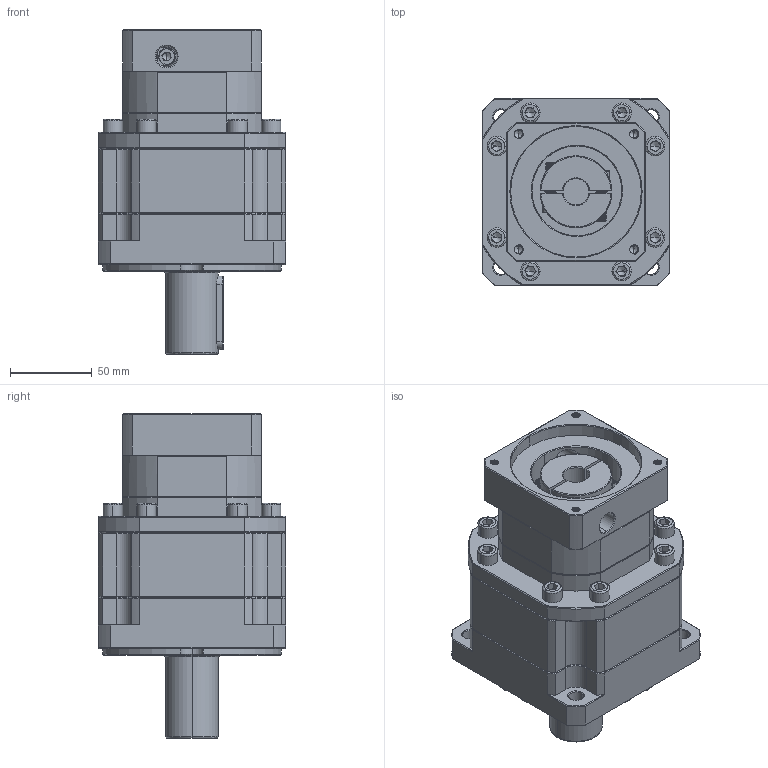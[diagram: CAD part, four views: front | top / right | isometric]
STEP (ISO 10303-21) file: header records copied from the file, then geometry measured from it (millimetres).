
FILE_DESCRIPTION (( 'STEP AP214' ), '1' );
FILE_NAME ('ZB115A-D32-L2-P2-16-80-100-M6.step', '2023-08-26T10:02:04', ( '' ), ( '' ), 'SwSTEP 2.0', 'SolidWorks 2016', '' );
FILE_SCHEMA (( 'AUTOMOTIVE_DESIGN' ));
Length unit declared in the file: millimetre
Products named in the file (1): ZB115A-D32-L2-P2-16-80-100-M6
Bounding box: 115 x 115 x 199 mm (x, y, z)
Volume: 1367960.4 mm3; surface area: 134338.6 mm2
Topology: 5 solids, 6 shells, 2412 faces, 6322 edges, 4012 vertices
Faces by surface type: plane 1190, bspline 427, cylinder 425, cone 355, torus 15
Entity records: 128500 total; most frequent: CARTESIAN_POINT 46245, ORIENTED_EDGE 12568, DIRECTION 9941, EDGE_CURVE 6284, VECTOR 4039, LINE 4039, VERTEX_POINT 4012, AXIS2_PLACEMENT_3D 2951
